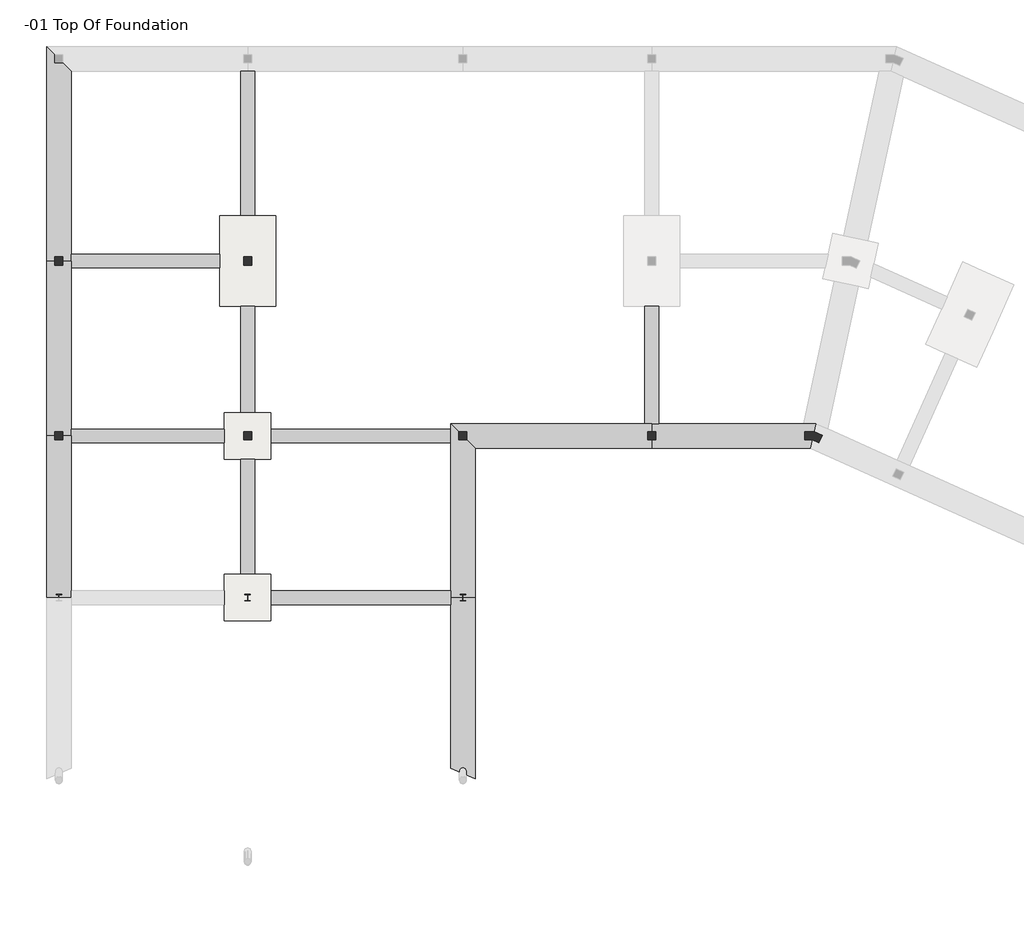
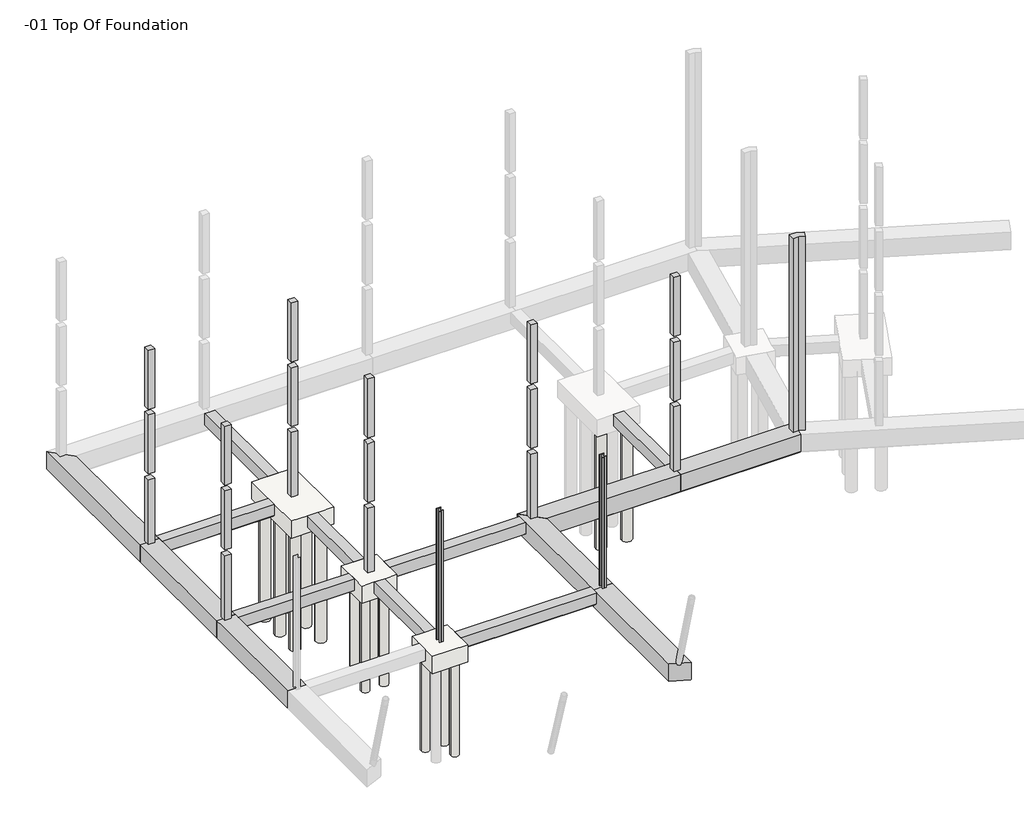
# One storey, part 2 of 4: 18 slabs, 15 beams, 9 columns.
"""IFC4 building model written with IfcOpenShell, lengths in millimetres."""

from ifc_helpers import new_model, si_unit, point, frame, frame_2d, origin, place, context, project, spatial, polyline, circle_curve, trimmed, segment, composite_curve, outline, extrude, faceted_brep, transform, mapped, element, save
from components import w_shapes_column_w10x33_60aa4128

model = new_model("IFC4")

# Units and contexts
model_context = context("Model", 3, world=origin())
ifc_project = project(units=[si_unit("LENGTHUNIT", "METRE", prefix="MILLI")], contexts=[model_context])

# Site, building, storey
site = spatial("IfcSite", under=ifc_project)
building = spatial("IfcBuilding", under=site)
storey = spatial("IfcBuildingStorey", under=building, Name="-01 Top Of Foundation", Elevation=-304.8)

# Beams
placement = place(None, origin())
element("IfcBeam", 1, ObjectType="Ring Beam : 12 x 24", at=placement, inside=storey, context=model_context, shape_type="Brep", body=[
    faceted_brep([(21755.1, -13538.2, -304.8), (22009.1, -13538.2, -304.8), (22263.1, -13538.2, -304.8), (22263.1, -9182.1, -304.8), (21755.1, -9182.1, -304.8), (22263.1, -13538.2, -889.0), (22263.1, -9182.1, -889.0), (22237.7, -13538.2, -914.4), (22237.7, -9182.1, -914.4), (21780.5, -13538.2, -914.4), (21780.5, -9182.1, -914.4), (21755.1, -13538.2, -889.0), (21755.1, -9182.1, -889.0)], [[[0, 1, 2, 3, 4]], [[2, 5, 6, 3]], [[5, 7, 8, 6]], [[7, 9, 10, 8]], [[9, 11, 12, 10]], [[11, 0, 4, 12]], [[5, 2, 1, 0, 11, 9, 7]], [[4, 3, 6, 8, 10, 12]]]),
])
element("IfcBeam", 2, ObjectType="Ring Beam : 12 x 24", at=placement, inside=storey, context=model_context, shape_type="Brep", body=[
    faceted_brep([(457.2, -7251.7, -304.8), (457.2, -7505.7, -304.8), (457.2, -7759.7, -304.8), (5969.0, -7759.7, -304.8), (5969.0, -7251.7, -304.8), (457.2, -7251.7, -889.0), (5969.0, -7251.7, -889.0), (457.2, -7277.1, -914.4), (5969.0, -7277.1, -914.4), (457.2, -7734.3, -914.4), (5969.0, -7734.3, -914.4), (457.2, -7759.7, -889.0), (5969.0, -7759.7, -889.0)], [[[0, 1, 2, 3, 4]], [[5, 0, 4, 6]], [[7, 5, 6, 8]], [[9, 7, 8, 10]], [[11, 9, 10, 12]], [[2, 11, 12, 3]], [[9, 11, 2, 1, 0, 5, 7]], [[4, 3, 12, 10, 8, 6]]]),
])
element("IfcBeam", 3, ObjectType="Ring Beam : 12 x 24", at=placement, inside=storey, context=model_context, shape_type="Brep", body=[
    faceted_brep([(7264.4, -457.2, -304.8), (7010.4, -457.2, -304.8), (6756.4, -457.2, -304.8), (6756.4, -5829.3, -304.8), (7264.4, -5829.3, -304.8), (7264.4, -457.2, -889.0), (7264.4, -5829.3, -889.0), (7239.0, -457.2, -914.4), (7239.0, -5829.3, -914.4), (6781.8, -457.2, -914.4), (6781.8, -5829.3, -914.4), (6756.4, -457.2, -889.0), (6756.4, -5829.3, -889.0)], [[[0, 1, 2, 3, 4]], [[5, 0, 4, 6]], [[7, 5, 6, 8]], [[9, 7, 8, 10]], [[11, 9, 10, 12]], [[2, 11, 12, 3]], [[0, 5, 7, 9, 11, 2, 1]], [[4, 3, 12, 10, 8, 6]]]),
])
element("IfcBeam", 4, ObjectType="Ring Beam : 12 x 24", at=placement, inside=storey, context=model_context, shape_type="SweptSolid", body=[
    extrude(outline(polyline([(-14249.4, -304.8), (-13741.4, -304.8), (-13741.4, -889.0), (-13766.8, -914.4), (-14224.0, -914.4), (-14249.4, -889.0), (-14249.4, -304.8)])), frame((7874.0, 0.0, 0.0), z_axis=(1.0, 0.0, 0.0), x_axis=(0.0, 1.0, 0.0)), (0.0, 0.0, 1.0), 6667.5),
])
element("IfcBeam", 5, ObjectType="Ring Beam : 12 x 24", at=placement, inside=storey, context=model_context, shape_type="SweptSolid", body=[
    extrude(outline(polyline([(-304.8, 7264.4), (-304.8, 6756.4), (-889.0, 6756.4), (-914.4, 6781.8), (-914.4, 7239.0), (-889.0, 7264.4), (-304.8, 7264.4)])), frame((0.0, -13131.8, 0.0), z_axis=(0.0, 1.0, 0.0), x_axis=(0.0, 0.0, 1.0)), (0.0, 0.0, 1.0), 3949.7),
])
element("IfcBeam", 6, ObjectType="Ring Beam : 12 x 24", at=placement, inside=storey, context=model_context, shape_type="SweptSolid", body=[
    extrude(outline(polyline([(-304.8, 7264.4), (-304.8, 6756.4), (-889.0, 6756.4), (-914.4, 6781.8), (-914.4, 7239.0), (-889.0, 7264.4), (-304.8, 7264.4)])), frame((0.0, -19138.9, 0.0), z_axis=(0.0, 1.0, 0.0), x_axis=(0.0, 0.0, 1.0)), (0.0, 0.0, 1.0), 4279.9),
])
element("IfcBeam", 7, ObjectType="Ring Beam : 12 x 24", at=placement, inside=storey, context=model_context, shape_type="Brep", body=[
    faceted_brep([(457.2, -13741.4, -304.8), (457.2, -13995.4, -304.8), (457.2, -14249.4, -304.8), (6146.8, -14249.4, -304.8), (6146.8, -13741.4, -304.8), (457.2, -13741.4, -889.0), (6146.8, -13741.4, -889.0), (457.2, -13766.8, -914.4), (6146.8, -13766.8, -914.4), (457.2, -14224.0, -914.4), (6146.8, -14224.0, -914.4), (457.2, -14249.4, -889.0), (6146.8, -14249.4, -889.0)], [[[0, 1, 2, 3, 4]], [[5, 0, 4, 6]], [[7, 5, 6, 8]], [[9, 7, 8, 10]], [[11, 9, 10, 12]], [[2, 11, 12, 3]], [[0, 5, 7, 9, 11, 2, 1]], [[4, 3, 12, 10, 8, 6]]]),
])
element("IfcBeam", 8, ObjectType="Ring Beam : 12 x 24", at=placement, inside=storey, context=model_context, shape_type="Brep", body=[
    faceted_brep([(14541.5, -20256.5, -304.8), (14541.5, -20002.5, -304.8), (14541.5, -19748.5, -304.8), (7874.0, -19748.5, -304.8), (7874.0, -20256.5, -304.8), (14541.5, -20256.5, -889.0), (7874.0, -20256.5, -889.0), (14541.5, -20231.1, -914.4), (7874.0, -20231.1, -914.4), (14541.5, -19773.9, -914.4), (7874.0, -19773.9, -914.4), (14541.5, -19748.5, -889.0), (7874.0, -19748.5, -889.0)], [[[0, 1, 2, 3, 4]], [[5, 0, 4, 6]], [[7, 5, 6, 8]], [[9, 7, 8, 10]], [[11, 9, 10, 12]], [[2, 11, 12, 3]], [[0, 5, 7, 9, 11, 2, 1]], [[4, 3, 12, 10, 8, 6]]]),
])
element("IfcBeam", 9, ObjectType="Ring Beam : 16 x 32", at=placement, inside=storey, context=model_context, shape_type="Brep", body=[
    faceted_brep([(457.2, -7505.7, -304.8), (457.2, -457.2, -304.8), (-457.2, 457.2, -304.8), (-457.2, -7505.7, -304.8), (-457.2, 457.2, -1193.8), (-457.2, -7505.7, -1193.8), (-431.8, 431.8, -1219.2), (-431.8, -7505.7, -1219.2), (431.8, -431.8, -1219.2), (431.8, -7505.7, -1219.2), (457.2, -457.2, -1193.8), (457.2, -7505.7, -1193.8)], [[[0, 1, 2, 3]], [[3, 2, 4, 5]], [[5, 4, 6, 7]], [[7, 6, 8, 9]], [[9, 8, 10, 11]], [[1, 0, 11, 10]], [[1, 10, 8, 6, 4, 2]], [[0, 3, 5, 7, 9, 11]]]),
])
element("IfcBeam", 10, ObjectType="Ring Beam : 16 x 32", at=placement, inside=storey, context=model_context, shape_type="Brep", body=[
    faceted_brep([(-457.2, -20002.5, -304.8), (457.2, -20002.5, -304.8), (457.2, -19748.5, -304.8), (457.2, -14249.4, -304.8), (457.2, -13995.4, -304.8), (-457.2, -13995.4, -304.8), (-457.2, -14452.6, -304.8), (-457.2, -20002.5, -1193.8), (-457.2, -13995.4, -1193.8), (-431.8, -20002.5, -1219.2), (-431.8, -13995.4, -1219.2), (431.8, -20002.5, -1219.2), (431.8, -13995.4, -1219.2), (457.2, -20002.5, -1193.8), (457.2, -13995.4, -1193.8)], [[[0, 1, 2, 3, 4, 5, 6]], [[7, 0, 6, 5, 8]], [[9, 7, 8, 10]], [[11, 9, 10, 12]], [[13, 11, 12, 14]], [[1, 13, 14, 4, 3, 2]], [[4, 14, 12, 10, 8, 5]], [[1, 0, 7, 9, 11, 13]]]),
])
element("IfcBeam", 11, ObjectType="Ring Beam : 16 x 32", at=placement, inside=storey, context=model_context, shape_type="Brep", body=[
    faceted_brep([(14541.5, -20002.5, -304.8), (15455.9, -20002.5, -304.8), (15455.9, -14452.6, -304.8), (14541.5, -13538.2, -304.8), (14541.5, -13741.4, -304.8), (14541.5, -14249.4, -304.8), (14541.5, -19748.5, -304.8), (14541.5, -20002.5, -1193.8), (14541.5, -13538.2, -1193.8), (14566.9, -20002.5, -1219.2), (14566.9, -13563.6, -1219.2), (15430.5, -20002.5, -1219.2), (15430.5, -14427.2, -1219.2), (15455.9, -20002.5, -1193.8), (15455.9, -14452.6, -1193.8)], [[[0, 1, 2, 3, 4, 5, 6]], [[7, 0, 6, 5, 4, 3, 8]], [[9, 7, 8, 10]], [[11, 9, 10, 12]], [[13, 11, 12, 14]], [[1, 13, 14, 2]], [[2, 14, 12, 10, 8, 3]], [[1, 0, 7, 9, 11, 13]]]),
])
element("IfcBeam", 12, ObjectType="Ring Beam : 16 x 32", at=placement, inside=storey, context=model_context, shape_type="Brep", body=[
    faceted_brep([(22009.1, -13538.2, -304.8), (21755.1, -13538.2, -304.8), (14541.5, -13538.2, -304.8), (15455.9, -14452.6, -304.8), (22009.1, -14452.6, -304.8), (15455.9, -14452.6, -1193.8), (22009.1, -14452.6, -1193.8), (15430.5, -14427.2, -1219.2), (22009.1, -14427.2, -1219.2), (14566.9, -13563.6, -1219.2), (22009.1, -13563.6, -1219.2), (14541.5, -13538.2, -1193.8), (22009.1, -13538.2, -1193.8)], [[[0, 1, 2, 3, 4]], [[4, 3, 5, 6]], [[6, 5, 7, 8]], [[8, 7, 9, 10]], [[10, 9, 11, 12]], [[2, 1, 0, 12, 11]], [[2, 11, 9, 7, 5, 3]], [[0, 4, 6, 8, 10, 12]]]),
])
element("IfcBeam", 13, ObjectType="Ring Beam : 16 x 32", at=placement, inside=storey, context=model_context, shape_type="Brep", body=[
    faceted_brep([(27903.7815965, -14452.6, -304.8), (28099.7244536, -13538.2, -304.8), (27649.987277, -13538.2, -304.8), (22263.1, -13538.2, -304.8), (22009.1, -13538.2, -304.8), (22009.1, -14452.6, -304.8), (27903.7815965, -14452.6, -1193.8), (22009.1, -14452.6, -1193.8), (27909.2244536, -14427.2, -1219.2), (22009.1, -14427.2, -1219.2), (28094.2815965, -13563.6, -1219.2), (22009.1, -13563.6, -1219.2), (27670.521038, -13563.6, -1219.2), (28099.7244536, -13538.2, -1193.8), (22009.1, -13538.2, -1193.8), (27649.987277, -13538.2, -1193.8)], [[[0, 1, 2, 3, 4, 5]], [[6, 0, 5, 7]], [[8, 6, 7, 9]], [[10, 8, 9, 11, 12]], [[13, 10, 12, 11, 14, 15]], [[1, 13, 15, 14, 4, 3, 2]], [[1, 0, 6, 8, 10, 13]], [[4, 14, 11, 9, 7, 5]]]),
])
element("IfcBeam", 14, ObjectType="Ring Beam : 16 x 32", at=placement, inside=storey, context=model_context, shape_type="Brep", body=[
    faceted_brep([(14541.5, -26332.3874204, -304.8), (15455.9, -26723.3402351, -304.8), (15455.9, -20002.5, -304.8), (14541.5, -20002.5, -304.8), (14541.5, -20256.5, -304.8), (14541.5, -26332.3874204, -1193.8), (14541.5, -20002.5, -1193.8), (14566.9, -26343.2472208, -1219.2), (14566.9, -20002.5, -1219.2), (15430.5, -26712.4804347, -1219.2), (15430.5, -20002.5, -1219.2), (15455.9, -26723.3402351, -1193.8), (15455.9, -20002.5, -1193.8)], [[[0, 1, 2, 3, 4]], [[5, 0, 4, 3, 6]], [[7, 5, 6, 8]], [[9, 7, 8, 10]], [[11, 9, 10, 12]], [[1, 11, 12, 2]], [[1, 0, 5, 7, 9, 11]], [[2, 12, 10, 8, 6, 3]]]),
])
element("IfcBeam", 15, ObjectType="Ring Beam : 16 x 32", at=placement, inside=storey, context=model_context, shape_type="SweptSolid", body=[
    extrude(outline(polyline([(-304.8, 457.2), (-304.8, -457.2), (-1193.8, -457.2), (-1219.2, -431.8), (-1219.2, 431.8), (-1193.8, 457.2), (-304.8, 457.2)])), frame((0.0, -13995.4, 0.0), z_axis=(0.0, 1.0, 0.0), x_axis=(0.0, 0.0, 1.0)), (0.0, 0.0, 1.0), 6489.7),
])

# Columns
element("IfcColumn", 16, ObjectType="Cranked Corner Column : CC1", at=placement, inside=storey, context=model_context, shape_type="Brep", body=[
    faceted_brep([(27696.953025, -13843.0, -304.8), (28034.376757, -13843.0, -304.8), (28342.2369275, -13981.275122, -304.8), (28217.3432689, -14259.3121951, -304.8), (27969.1292931, -14147.8, -304.8), (27696.953025, -14147.8, -304.8), (27696.953025, -13843.0, 9753.6), (28034.376757, -13843.0, 9753.6), (28342.2369275, -13981.275122, 9753.6), (28342.2369275, -13981.275122, 6705.6), (28342.2369275, -13981.275122, 6400.8), (28342.2369275, -13981.275122, 3352.8), (28342.2369275, -13981.275122, 3048.0), (28342.2369275, -13981.275122, 0.0), (28217.3432689, -14259.3121951, 9753.6), (28217.3432689, -14259.3121951, 6705.6), (28217.3432689, -14259.3121951, 6400.8), (28217.3432689, -14259.3121951, 3352.8), (28217.3432689, -14259.3121951, 3048.0), (28217.3432689, -14259.3121951, 0.0), (27969.1292931, -14147.8, 9753.6), (27696.953025, -14147.8, 9753.6)], [[[0, 1, 2, 3, 4, 5]], [[6, 7, 1, 0]], [[7, 8, 9, 10, 11, 12, 13, 2, 1]], [[8, 14, 15, 16, 17, 18, 19, 3, 2, 13, 12, 11, 10, 9]], [[14, 20, 4, 3, 19, 18, 17, 16, 15]], [[20, 21, 5, 4]], [[21, 6, 0, 5]], [[6, 21, 20, 14, 8, 7]]]),
])
element("IfcColumn", 17, ObjectType="Concrete-Rectangular-Column : 12 x 12", at=placement, inside=storey, context=model_context, shape_type="Brep", body=[
    faceted_brep([(7162.8, -7353.3, -304.8), (7162.8, -7658.1, -304.8), (6858.0, -7658.1, -304.8), (6858.0, -7353.3, -304.8), (7162.8, -7658.1, 3048.0), (7162.8, -7353.3, 3048.0), (6858.0, -7353.3, 3048.0), (6858.0, -7658.1, 3048.0), (7162.8, -7353.3, 0.0), (7162.8, -7658.1, 0.0), (6858.0, -7658.1, 0.0), (6858.0, -7353.3, 0.0)], [[[0, 1, 2, 3]], [[4, 5, 6, 7]], [[1, 0, 8, 5, 4, 9]], [[2, 1, 9, 4, 7, 10]], [[3, 2, 10, 7, 6, 11]], [[0, 3, 11, 6, 5, 8]]]),
    faceted_brep([(7162.8, -7658.1, 6705.6), (7162.8, -7353.3, 6705.6), (7162.8, -7353.3, 9753.6), (7162.8, -7658.1, 9753.6), (6858.0, -7658.1, 6705.6), (6858.0, -7658.1, 9753.6), (6858.0, -7353.3, 6705.6), (6858.0, -7353.3, 9753.6)], [[[0, 1, 2, 3]], [[4, 0, 3, 5]], [[6, 4, 5, 7]], [[1, 6, 7, 2]], [[1, 0, 4, 6]], [[3, 2, 7, 5]]]),
    faceted_brep([(7162.8, -7658.1, 6400.8), (7162.8, -7353.3, 6400.8), (6858.0, -7353.3, 6400.8), (6858.0, -7658.1, 6400.8), (7162.8, -7658.1, 3352.8), (7162.8, -7353.3, 3352.8), (6858.0, -7658.1, 3352.8), (6858.0, -7353.3, 3352.8)], [[[0, 1, 2, 3]], [[1, 0, 4, 5]], [[0, 3, 6, 4]], [[3, 2, 7, 6]], [[2, 1, 5, 7]], [[5, 4, 6, 7]]]),
])
element("IfcColumn", 18, ObjectType="Concrete-Rectangular-Column : 12 x 12", at=placement, inside=storey, context=model_context, shape_type="Brep", body=[
    faceted_brep([(152.4, -7353.3, -304.8), (152.4, -7658.1, -304.8), (-152.4, -7658.1, -304.8), (-152.4, -7353.3, -304.8), (152.4, -7658.1, 3048.0), (152.4, -7353.3, 3048.0), (-152.4, -7353.3, 3048.0), (-152.4, -7658.1, 3048.0), (152.4, -7353.3, 0.0), (152.4, -7658.1, 0.0), (-152.4, -7658.1, 0.0), (-152.4, -7353.3, 0.0)], [[[0, 1, 2, 3]], [[4, 5, 6, 7]], [[1, 0, 8, 5, 4, 9]], [[2, 1, 9, 4, 7, 10]], [[3, 2, 10, 7, 6, 11]], [[0, 3, 11, 6, 5, 8]]]),
    faceted_brep([(152.4, -7658.1, 6705.6), (152.4, -7353.3, 6705.6), (152.4, -7353.3, 9753.6), (152.4, -7658.1, 9753.6), (-152.4, -7658.1, 6705.6), (-152.4, -7658.1, 9753.6), (-152.4, -7353.3, 6705.6), (-152.4, -7353.3, 9753.6)], [[[0, 1, 2, 3]], [[4, 0, 3, 5]], [[6, 4, 5, 7]], [[1, 6, 7, 2]], [[1, 0, 4, 6]], [[3, 2, 7, 5]]]),
    faceted_brep([(152.4, -7658.1, 6400.8), (152.4, -7353.3, 6400.8), (-152.4, -7353.3, 6400.8), (-152.4, -7658.1, 6400.8), (152.4, -7658.1, 3352.8), (152.4, -7353.3, 3352.8), (-152.4, -7658.1, 3352.8), (-152.4, -7353.3, 3352.8)], [[[0, 1, 2, 3]], [[1, 0, 4, 5]], [[0, 3, 6, 4]], [[3, 2, 7, 6]], [[2, 1, 5, 7]], [[5, 4, 6, 7]]]),
])
element("IfcColumn", 19, ObjectType="Concrete-Rectangular-Column : 12 x 12", at=placement, inside=storey, context=model_context, shape_type="Brep", body=[
    faceted_brep([(152.4, -13843.0, -304.8), (152.4, -14147.8, -304.8), (-152.4, -14147.8, -304.8), (-152.4, -13843.0, -304.8), (152.4, -13843.0, 0.0), (152.4, -13843.0, 3048.0), (152.4, -14147.8, 3048.0), (152.4, -14147.8, 0.0), (-152.4, -14147.8, 3048.0), (-152.4, -14147.8, 0.0), (-152.4, -13843.0, 3048.0), (-152.4, -13843.0, 0.0)], [[[0, 1, 2, 3]], [[1, 0, 4, 5, 6, 7]], [[2, 1, 7, 6, 8, 9]], [[3, 2, 9, 8, 10, 11]], [[0, 3, 11, 10, 5, 4]], [[6, 5, 10, 8]]]),
    faceted_brep([(152.4, -14147.8, 6705.6), (152.4, -13843.0, 6705.6), (152.4, -13843.0, 9753.6), (152.4, -14147.8, 9753.6), (-152.4, -14147.8, 6705.6), (-152.4, -14147.8, 9753.6), (-152.4, -13843.0, 6705.6), (-152.4, -13843.0, 9753.6)], [[[0, 1, 2, 3]], [[4, 0, 3, 5]], [[6, 4, 5, 7]], [[1, 6, 7, 2]], [[1, 0, 4, 6]], [[3, 2, 7, 5]]]),
    faceted_brep([(152.4, -13843.0, 3352.8), (152.4, -14147.8, 3352.8), (-152.4, -14147.8, 3352.8), (-152.4, -13843.0, 3352.8), (152.4, -14147.8, 6400.8), (152.4, -13843.0, 6400.8), (-152.4, -13843.0, 6400.8), (-152.4, -14147.8, 6400.8)], [[[0, 1, 2, 3]], [[4, 5, 6, 7]], [[1, 0, 5, 4]], [[2, 1, 4, 7]], [[3, 2, 7, 6]], [[0, 3, 6, 5]]]),
])
element("IfcColumn", 20, ObjectType="Concrete-Rectangular-Column : 12 x 12", at=placement, inside=storey, context=model_context, shape_type="Brep", body=[
    faceted_brep([(15151.1, -13843.0, -304.8), (15151.1, -14147.8, -304.8), (14846.3, -14147.8, -304.8), (14846.3, -13843.0, -304.8), (15151.1, -13843.0, 0.0), (15151.1, -13843.0, 3048.0), (15151.1, -14147.8, 3048.0), (15151.1, -14147.8, 0.0), (14846.3, -14147.8, 3048.0), (14846.3, -14147.8, 0.0), (14846.3, -13843.0, 3048.0), (14846.3, -13843.0, 0.0)], [[[0, 1, 2, 3]], [[1, 0, 4, 5, 6, 7]], [[2, 1, 7, 6, 8, 9]], [[3, 2, 9, 8, 10, 11]], [[0, 3, 11, 10, 5, 4]], [[6, 5, 10, 8]]]),
    faceted_brep([(15151.1, -14147.8, 6705.6), (15151.1, -13843.0, 6705.6), (15151.1, -13843.0, 9753.6), (15151.1, -14147.8, 9753.6), (14846.3, -14147.8, 6705.6), (14846.3, -14147.8, 9753.6), (14846.3, -13843.0, 6705.6), (14846.3, -13843.0, 9753.6)], [[[0, 1, 2, 3]], [[4, 0, 3, 5]], [[6, 4, 5, 7]], [[1, 6, 7, 2]], [[1, 0, 4, 6]], [[3, 2, 7, 5]]]),
    faceted_brep([(15151.1, -13843.0, 3352.8), (15151.1, -14147.8, 3352.8), (14846.3, -14147.8, 3352.8), (14846.3, -13843.0, 3352.8), (15151.1, -14147.8, 6400.8), (15151.1, -13843.0, 6400.8), (14846.3, -13843.0, 6400.8), (14846.3, -14147.8, 6400.8)], [[[0, 1, 2, 3]], [[4, 5, 6, 7]], [[1, 0, 5, 4]], [[2, 1, 4, 7]], [[3, 2, 7, 6]], [[0, 3, 6, 5]]]),
])
element("IfcColumn", 21, ObjectType="Concrete-Rectangular-Column : 12 x 12", at=placement, inside=storey, context=model_context, shape_type="Brep", body=[
    faceted_brep([(22161.5, -13843.0, -304.8), (22161.5, -14147.8, -304.8), (21856.7, -14147.8, -304.8), (21856.7, -13843.0, -304.8), (22161.5, -14147.8, 3048.0), (22161.5, -13843.0, 3048.0), (21856.7, -13843.0, 3048.0), (21856.7, -14147.8, 3048.0), (22161.5, -13843.0, 0.0), (22161.5, -14147.8, 0.0), (21856.7, -14147.8, 0.0), (21856.7, -13843.0, 0.0)], [[[0, 1, 2, 3]], [[4, 5, 6, 7]], [[1, 0, 8, 5, 4, 9]], [[2, 1, 9, 4, 7, 10]], [[3, 2, 10, 7, 6, 11]], [[0, 3, 11, 6, 5, 8]]]),
    faceted_brep([(22161.5, -14147.8, 6705.6), (22161.5, -13843.0, 6705.6), (22161.5, -13843.0, 9753.6), (22161.5, -14147.8, 9753.6), (21856.7, -14147.8, 6705.6), (21856.7, -14147.8, 9753.6), (21856.7, -13843.0, 6705.6), (21856.7, -13843.0, 9753.6)], [[[0, 1, 2, 3]], [[4, 0, 3, 5]], [[6, 4, 5, 7]], [[1, 6, 7, 2]], [[1, 0, 4, 6]], [[3, 2, 7, 5]]]),
    faceted_brep([(22161.5, -14147.8, 6400.8), (22161.5, -13843.0, 6400.8), (21856.7, -13843.0, 6400.8), (21856.7, -14147.8, 6400.8), (22161.5, -14147.8, 3352.8), (22161.5, -13843.0, 3352.8), (21856.7, -14147.8, 3352.8), (21856.7, -13843.0, 3352.8)], [[[0, 1, 2, 3]], [[1, 0, 4, 5]], [[0, 3, 6, 4]], [[3, 2, 7, 6]], [[2, 1, 5, 7]], [[5, 4, 6, 7]]]),
])
element("IfcColumn", 22, ObjectType="Concrete-Rectangular-Column : 12 x 12", at=placement, inside=storey, context=model_context, shape_type="Brep", body=[
    faceted_brep([(7162.8, -13843.0, -304.8), (7162.8, -14147.8, -304.8), (6858.0, -14147.8, -304.8), (6858.0, -13843.0, -304.8), (7162.8, -13843.0, 0.0), (7162.8, -13843.0, 3048.0), (7162.8, -14147.8, 3048.0), (7162.8, -14147.8, 0.0), (6858.0, -14147.8, 3048.0), (6858.0, -14147.8, 0.0), (6858.0, -13843.0, 3048.0), (6858.0, -13843.0, 0.0)], [[[0, 1, 2, 3]], [[1, 0, 4, 5, 6, 7]], [[2, 1, 7, 6, 8, 9]], [[3, 2, 9, 8, 10, 11]], [[0, 3, 11, 10, 5, 4]], [[6, 5, 10, 8]]]),
    faceted_brep([(7162.8, -14147.8, 6705.6), (7162.8, -13843.0, 6705.6), (7162.8, -13843.0, 9753.6), (7162.8, -14147.8, 9753.6), (6858.0, -14147.8, 6705.6), (6858.0, -14147.8, 9753.6), (6858.0, -13843.0, 6705.6), (6858.0, -13843.0, 9753.6)], [[[0, 1, 2, 3]], [[4, 0, 3, 5]], [[6, 4, 5, 7]], [[1, 6, 7, 2]], [[1, 0, 4, 6]], [[3, 2, 7, 5]]]),
    faceted_brep([(7162.8, -13843.0, 3352.8), (7162.8, -14147.8, 3352.8), (6858.0, -14147.8, 3352.8), (6858.0, -13843.0, 3352.8), (7162.8, -14147.8, 6400.8), (7162.8, -13843.0, 6400.8), (6858.0, -13843.0, 6400.8), (6858.0, -14147.8, 6400.8)], [[[0, 1, 2, 3]], [[4, 5, 6, 7]], [[1, 0, 5, 4]], [[2, 1, 4, 7]], [[3, 2, 7, 6]], [[0, 3, 6, 5]]]),
])
w_shapes_column_w10x33_shape = w_shapes_column_w10x33_60aa4128(model_context)
element("IfcColumn", 23, ObjectType="W Shapes-Column : W10X33", at=placement, inside=storey, context=model_context, shape_type="MappedRepresentation", body=[
    mapped(w_shapes_column_w10x33_shape, transform((7010.4, -20002.5, 0.0), x_axis=(1.0, 0.0, 0.0), y_axis=(0.0, 1.0, 0.0), z_axis=(0.0, 0.0, 1.0))),
])
element("IfcColumn", 24, ObjectType="W Shapes-Column : W10X33", at=placement, inside=storey, context=model_context, shape_type="MappedRepresentation", body=[
    mapped(w_shapes_column_w10x33_shape, transform((14998.7, -20002.5, 0.0), x_axis=(1.0, 0.0, 0.0), y_axis=(0.0, 1.0, 0.0), z_axis=(0.0, 0.0, 1.0))),
])

# Slabs
element("IfcSlab", 25, ObjectType="Pile Cap-4 Pile : 68\"x68\"x35\"", at=placement, inside=storey, context=model_context, shape_type="Brep", body=[
    faceted_brep([(7874.0, -13131.8, -304.8), (7264.4, -13131.8, -304.8), (6756.4, -13131.8, -304.8), (6146.8, -13131.8, -304.8), (6146.8, -13741.4, -304.8), (6146.8, -14249.4, -304.8), (6146.8, -14859.0, -304.8), (6756.4, -14859.0, -304.8), (7264.4, -14859.0, -304.8), (7874.0, -14859.0, -304.8), (7874.0, -14249.4, -304.8), (7874.0, -13741.4, -304.8), (7874.0, -13131.8, -1193.8), (7874.0, -14859.0, -1193.8), (6146.8, -14859.0, -1193.8), (6146.8, -13131.8, -1193.8)], [[[0, 1, 2, 3, 4, 5, 6, 7, 8, 9, 10, 11]], [[12, 13, 14, 15]], [[3, 2, 1, 0, 12, 15]], [[6, 5, 4, 3, 15, 14]], [[9, 8, 7, 6, 14, 13]], [[0, 11, 10, 9, 13, 12]]]),
])
element("IfcSlab", 26, ObjectType="Pile Cap-4 Pile : 68\"x68\"x35\"", at=placement, inside=storey, context=model_context, shape_type="Brep", body=[
    faceted_brep([(7874.0, -19138.9, -304.8), (7264.4, -19138.9, -304.8), (6756.4, -19138.9, -304.8), (6146.8, -19138.9, -304.8), (6146.8, -19748.5, -304.8), (6146.8, -20256.5, -304.8), (6146.8, -20866.1, -304.8), (7874.0, -20866.1, -304.8), (7874.0, -20256.5, -304.8), (7874.0, -19748.5, -304.8), (7874.0, -19138.9, -1193.8), (7874.0, -20866.1, -1193.8), (6146.8, -20866.1, -1193.8), (6146.8, -19138.9, -1193.8)], [[[0, 1, 2, 3, 4, 5, 6, 7, 8, 9]], [[10, 11, 12, 13]], [[3, 2, 1, 0, 10, 13]], [[6, 5, 4, 3, 13, 12]], [[7, 6, 12, 11]], [[0, 9, 8, 7, 11, 10]]]),
])
element("IfcSlab", 27, ObjectType="Pile Cap-6 Pile : 132\"x82\"x35\"", at=placement, inside=storey, context=model_context, shape_type="Brep", body=[
    faceted_brep([(5969.0, -9182.1, -304.8), (6756.4, -9182.1, -304.8), (7264.4, -9182.1, -304.8), (8051.8, -9182.1, -304.8), (8051.8, -5829.3, -304.8), (7264.4, -5829.3, -304.8), (6756.4, -5829.3, -304.8), (5969.0, -5829.3, -304.8), (5969.0, -7251.7, -304.8), (5969.0, -7759.7, -304.8), (5969.0, -9182.1, -1193.8), (5969.0, -5829.3, -1193.8), (8051.8, -5829.3, -1193.8), (8051.8, -9182.1, -1193.8)], [[[0, 1, 2, 3, 4, 5, 6, 7, 8, 9]], [[10, 11, 12, 13]], [[3, 2, 1, 0, 10, 13]], [[4, 3, 13, 12]], [[7, 6, 5, 4, 12, 11]], [[0, 9, 8, 7, 11, 10]]]),
])
element("IfcSlab", 28, ObjectType="Round In Situ Concrete Pile : 16\" Diameter 16'", at=placement, inside=storey, context=model_context, shape_type="SweptSolid", body=[
    extrude(outline(composite_curve([segment(trimmed(circle_curve(frame_2d((6553.2, -13538.2)), 203.2), [point((6350.0, -13538.2))], [point((6756.4, -13538.2))], False, "CARTESIAN"), True, "CONTINUOUS"), segment(trimmed(circle_curve(frame_2d((6553.2, -13538.2)), 203.2), [point((6756.4, -13538.2))], [point((6350.0, -13538.2))], False, "CARTESIAN"), True, "CONTINUOUS")], self_intersect=False)), frame((0.0, 0.0, -6070.6), z_axis=(0.0, 0.0, 1.0), x_axis=(1.0, 0.0, 0.0)), (0.0, 0.0, 1.0), 4876.8),
])
element("IfcSlab", 29, ObjectType="Round In Situ Concrete Pile : 16\" Diameter 16'", at=placement, inside=storey, context=model_context, shape_type="SweptSolid", body=[
    extrude(outline(composite_curve([segment(trimmed(circle_curve(frame_2d((6553.2, -14452.6)), 203.2), [point((6350.0, -14452.6))], [point((6756.4, -14452.6))], False, "CARTESIAN"), True, "CONTINUOUS"), segment(trimmed(circle_curve(frame_2d((6553.2, -14452.6)), 203.2), [point((6756.4, -14452.6))], [point((6350.0, -14452.6))], False, "CARTESIAN"), True, "CONTINUOUS")], self_intersect=False)), frame((0.0, 0.0, -6070.6), z_axis=(0.0, 0.0, 1.0), x_axis=(1.0, 0.0, 0.0)), (0.0, 0.0, 1.0), 4876.8),
])
element("IfcSlab", 30, ObjectType="Round In Situ Concrete Pile : 16\" Diameter 16'", at=placement, inside=storey, context=model_context, shape_type="SweptSolid", body=[
    extrude(outline(composite_curve([segment(trimmed(circle_curve(frame_2d((7467.6, -14452.6)), 203.2), [point((7264.4, -14452.6))], [point((7670.8, -14452.6))], False, "CARTESIAN"), True, "CONTINUOUS"), segment(trimmed(circle_curve(frame_2d((7467.6, -14452.6)), 203.2), [point((7670.8, -14452.6))], [point((7264.4, -14452.6))], False, "CARTESIAN"), True, "CONTINUOUS")], self_intersect=False)), frame((0.0, 0.0, -6070.6), z_axis=(0.0, 0.0, 1.0), x_axis=(1.0, 0.0, 0.0)), (0.0, 0.0, 1.0), 4876.8),
])
element("IfcSlab", 31, ObjectType="Round In Situ Concrete Pile : 16\" Diameter 16'", at=placement, inside=storey, context=model_context, shape_type="SweptSolid", body=[
    extrude(outline(composite_curve([segment(trimmed(circle_curve(frame_2d((7467.6, -13538.2)), 203.2), [point((7264.4, -13538.2))], [point((7670.8, -13538.2))], False, "CARTESIAN"), True, "CONTINUOUS"), segment(trimmed(circle_curve(frame_2d((7467.6, -13538.2)), 203.2), [point((7670.8, -13538.2))], [point((7264.4, -13538.2))], False, "CARTESIAN"), True, "CONTINUOUS")], self_intersect=False)), frame((0.0, 0.0, -6070.6), z_axis=(0.0, 0.0, 1.0), x_axis=(1.0, 0.0, 0.0)), (0.0, 0.0, 1.0), 4876.8),
])
element("IfcSlab", 32, ObjectType="Round In Situ Concrete Pile : 16\" Diameter 16'", at=placement, inside=storey, context=model_context, shape_type="SweptSolid", body=[
    extrude(outline(composite_curve([segment(trimmed(circle_curve(frame_2d((6553.2, -19545.3)), 203.2), [point((6350.0, -19545.3))], [point((6756.4, -19545.3))], False, "CARTESIAN"), True, "CONTINUOUS"), segment(trimmed(circle_curve(frame_2d((6553.2, -19545.3)), 203.2), [point((6756.4, -19545.3))], [point((6350.0, -19545.3))], False, "CARTESIAN"), True, "CONTINUOUS")], self_intersect=False)), frame((0.0, 0.0, -6070.6), z_axis=(0.0, 0.0, 1.0), x_axis=(1.0, 0.0, 0.0)), (0.0, 0.0, 1.0), 4876.8),
])
element("IfcSlab", 33, ObjectType="Round In Situ Concrete Pile : 16\" Diameter 16'", at=placement, inside=storey, context=model_context, shape_type="SweptSolid", body=[
    extrude(outline(composite_curve([segment(trimmed(circle_curve(frame_2d((7467.6, -20459.7)), 203.2), [point((7264.4, -20459.7))], [point((7670.8, -20459.7))], False, "CARTESIAN"), True, "CONTINUOUS"), segment(trimmed(circle_curve(frame_2d((7467.6, -20459.7)), 203.2), [point((7670.8, -20459.7))], [point((7264.4, -20459.7))], False, "CARTESIAN"), True, "CONTINUOUS")], self_intersect=False)), frame((0.0, 0.0, -6070.6), z_axis=(0.0, 0.0, 1.0), x_axis=(1.0, 0.0, 0.0)), (0.0, 0.0, 1.0), 4876.8),
])
element("IfcSlab", 34, ObjectType="Round In Situ Concrete Pile : 16\" Diameter 16'", at=placement, inside=storey, context=model_context, shape_type="SweptSolid", body=[
    extrude(outline(composite_curve([segment(trimmed(circle_curve(frame_2d((7467.6, -19545.3)), 203.2), [point((7264.4, -19545.3))], [point((7670.8, -19545.3))], False, "CARTESIAN"), True, "CONTINUOUS"), segment(trimmed(circle_curve(frame_2d((7467.6, -19545.3)), 203.2), [point((7670.8, -19545.3))], [point((7264.4, -19545.3))], False, "CARTESIAN"), True, "CONTINUOUS")], self_intersect=False)), frame((0.0, 0.0, -6070.6), z_axis=(0.0, 0.0, 1.0), x_axis=(1.0, 0.0, 0.0)), (0.0, 0.0, 1.0), 4876.8),
])
element("IfcSlab", 35, ObjectType="Round In Situ Concrete Pile : 20\" Diameter", at=placement, inside=storey, context=model_context, shape_type="SweptSolid", body=[
    extrude(outline(composite_curve([segment(trimmed(circle_curve(frame_2d((7645.4, -8775.7)), 254.0), [point((7899.4, -8775.7))], [point((7391.4, -8775.7))], False, "CARTESIAN"), True, "CONTINUOUS"), segment(trimmed(circle_curve(frame_2d((7645.4, -8775.7)), 254.0), [point((7391.4, -8775.7))], [point((7899.4, -8775.7))], False, "CARTESIAN"), True, "CONTINUOUS")], self_intersect=False)), frame((0.0, 0.0, -7289.8), z_axis=(0.0, 0.0, 1.0), x_axis=(1.0, 0.0, 0.0)), (0.0, 0.0, 1.0), 6096.0),
])
element("IfcSlab", 36, ObjectType="Round In Situ Concrete Pile : 20\" Diameter", at=placement, inside=storey, context=model_context, shape_type="SweptSolid", body=[
    extrude(outline(composite_curve([segment(trimmed(circle_curve(frame_2d((7645.4, -6235.7)), 254.0), [point((7899.4, -6235.7))], [point((7391.4, -6235.7))], False, "CARTESIAN"), True, "CONTINUOUS"), segment(trimmed(circle_curve(frame_2d((7645.4, -6235.7)), 254.0), [point((7391.4, -6235.7))], [point((7899.4, -6235.7))], False, "CARTESIAN"), True, "CONTINUOUS")], self_intersect=False)), frame((0.0, 0.0, -7289.8), z_axis=(0.0, 0.0, 1.0), x_axis=(1.0, 0.0, 0.0)), (0.0, 0.0, 1.0), 6096.0),
])
element("IfcSlab", 37, ObjectType="Round In Situ Concrete Pile : 20\" Diameter", at=placement, inside=storey, context=model_context, shape_type="SweptSolid", body=[
    extrude(outline(composite_curve([segment(trimmed(circle_curve(frame_2d((6375.4, -6235.7)), 254.0), [point((6629.4, -6235.7))], [point((6121.4, -6235.7))], False, "CARTESIAN"), True, "CONTINUOUS"), segment(trimmed(circle_curve(frame_2d((6375.4, -6235.7)), 254.0), [point((6121.4, -6235.7))], [point((6629.4, -6235.7))], False, "CARTESIAN"), True, "CONTINUOUS")], self_intersect=False)), frame((0.0, 0.0, -7289.8), z_axis=(0.0, 0.0, 1.0), x_axis=(1.0, 0.0, 0.0)), (0.0, 0.0, 1.0), 6096.0),
])
element("IfcSlab", 38, ObjectType="Round In Situ Concrete Pile : 20\" Diameter", at=placement, inside=storey, context=model_context, shape_type="SweptSolid", body=[
    extrude(outline(composite_curve([segment(trimmed(circle_curve(frame_2d((6375.4, -8775.7)), 254.0), [point((6629.4, -8775.7))], [point((6121.4, -8775.7))], False, "CARTESIAN"), True, "CONTINUOUS"), segment(trimmed(circle_curve(frame_2d((6375.4, -8775.7)), 254.0), [point((6121.4, -8775.7))], [point((6629.4, -8775.7))], False, "CARTESIAN"), True, "CONTINUOUS")], self_intersect=False)), frame((0.0, 0.0, -7289.8), z_axis=(0.0, 0.0, 1.0), x_axis=(1.0, 0.0, 0.0)), (0.0, 0.0, 1.0), 6096.0),
])
element("IfcSlab", 39, ObjectType="Round In Situ Concrete Pile : 20\" Diameter", at=placement, inside=storey, context=model_context, shape_type="SweptSolid", body=[
    extrude(outline(composite_curve([segment(trimmed(circle_curve(frame_2d((7645.4, -7505.7)), 254.0), [point((7899.4, -7505.7))], [point((7391.4, -7505.7))], False, "CARTESIAN"), True, "CONTINUOUS"), segment(trimmed(circle_curve(frame_2d((7645.4, -7505.7)), 254.0), [point((7391.4, -7505.7))], [point((7899.4, -7505.7))], False, "CARTESIAN"), True, "CONTINUOUS")], self_intersect=False)), frame((0.0, 0.0, -7289.8), z_axis=(0.0, 0.0, 1.0), x_axis=(1.0, 0.0, 0.0)), (0.0, 0.0, 1.0), 6096.0),
])
element("IfcSlab", 40, ObjectType="Round In Situ Concrete Pile : 20\" Diameter", at=placement, inside=storey, context=model_context, shape_type="SweptSolid", body=[
    extrude(outline(composite_curve([segment(trimmed(circle_curve(frame_2d((6375.4, -7505.7)), 254.0), [point((6629.4, -7505.7))], [point((6121.4, -7505.7))], False, "CARTESIAN"), True, "CONTINUOUS"), segment(trimmed(circle_curve(frame_2d((6375.4, -7505.7)), 254.0), [point((6121.4, -7505.7))], [point((6629.4, -7505.7))], False, "CARTESIAN"), True, "CONTINUOUS")], self_intersect=False)), frame((0.0, 0.0, -7289.8), z_axis=(0.0, 0.0, 1.0), x_axis=(1.0, 0.0, 0.0)), (0.0, 0.0, 1.0), 6096.0),
])
element("IfcSlab", 41, ObjectType="Round In Situ Concrete Pile : 20\" Diameter", at=placement, inside=storey, context=model_context, shape_type="SweptSolid", body=[
    extrude(outline(composite_curve([segment(trimmed(circle_curve(frame_2d((22644.1, -8775.7)), 254.0), [point((22898.1, -8775.7))], [point((22390.1, -8775.7))], False, "CARTESIAN"), True, "CONTINUOUS"), segment(trimmed(circle_curve(frame_2d((22644.1, -8775.7)), 254.0), [point((22390.1, -8775.7))], [point((22898.1, -8775.7))], False, "CARTESIAN"), True, "CONTINUOUS")], self_intersect=False)), frame((0.0, 0.0, -7289.8), z_axis=(0.0, 0.0, 1.0), x_axis=(1.0, 0.0, 0.0)), (0.0, 0.0, 1.0), 6096.0),
])
element("IfcSlab", 42, ObjectType="Round In Situ Concrete Pile : 20\" Diameter", at=placement, inside=storey, context=model_context, shape_type="SweptSolid", body=[
    extrude(outline(composite_curve([segment(trimmed(circle_curve(frame_2d((21374.1, -8775.7)), 254.0), [point((21628.1, -8775.7))], [point((21120.1, -8775.7))], False, "CARTESIAN"), True, "CONTINUOUS"), segment(trimmed(circle_curve(frame_2d((21374.1, -8775.7)), 254.0), [point((21120.1, -8775.7))], [point((21628.1, -8775.7))], False, "CARTESIAN"), True, "CONTINUOUS")], self_intersect=False)), frame((0.0, 0.0, -7289.8), z_axis=(0.0, 0.0, 1.0), x_axis=(1.0, 0.0, 0.0)), (0.0, 0.0, 1.0), 6096.0),
])

save(model, "model.ifc")
